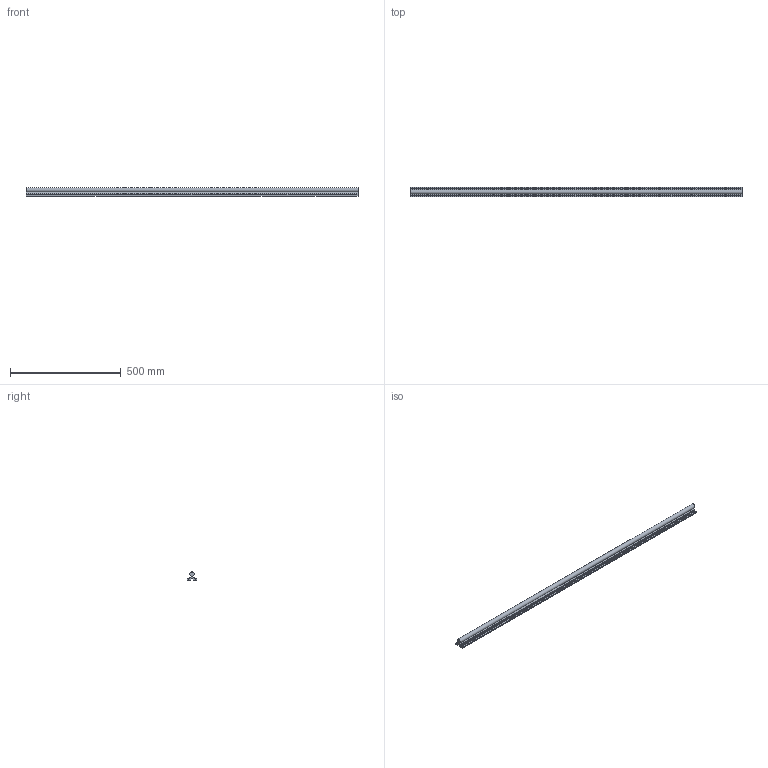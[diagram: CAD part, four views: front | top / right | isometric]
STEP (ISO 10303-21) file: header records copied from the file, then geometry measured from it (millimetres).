
FILE_DESCRIPTION(/* description */ (''),/* implementation_level */ '2;1');
FILE_NAME(/* name */ 'C:\Users\David\Desktop\stepFiles\Profilfuehrung\LFS20x1500.stp',/* time_stamp */ '2018-06-24T15:22:01+02:00',/* author */ ('Buskamp'),/* organization */ (''),/* preprocessor_version */ 'ST-DEVELOPER v17',/* originating_system */ 'Autodesk Inventor 2019',/* authorisation */ '');
FILE_SCHEMA (('AUTOMOTIVE_DESIGN { 1 0 10303 214 3 1 1 }'));
Length unit declared in the file: millimetre
Products named in the file (1): Linearführung D20xvariabel
Bounding box: 1500 x 45 x 37 mm (x, y, z)
Volume: 969166.6 mm3; surface area: 266144.6 mm2
Topology: 1 solids, 1 shells, 122 faces, 408 edges, 268 vertices
Faces by surface type: plane 85, cylinder 21, cone 16
Full cylindrical faces by diameter (mm): 5.5 x20
Entity records: 4581 total; most frequent: CARTESIAN_POINT 863, ORIENTED_EDGE 816, DIRECTION 780, EDGE_CURVE 408, AXIS2_PLACEMENT_3D 281, VERTEX_POINT 268, LINE 218, VECTOR 218
